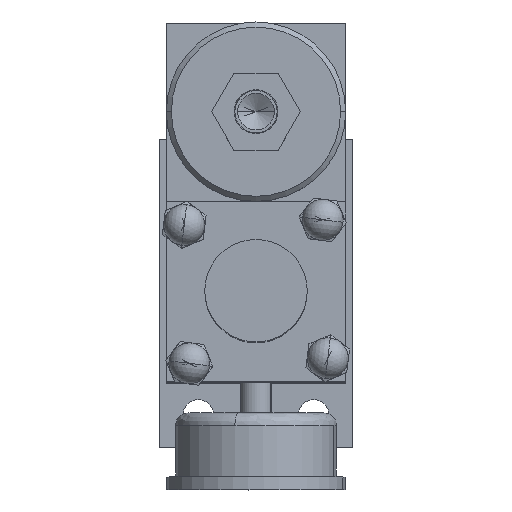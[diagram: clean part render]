
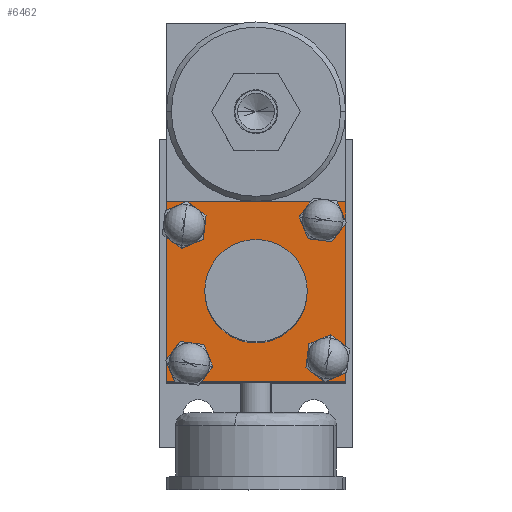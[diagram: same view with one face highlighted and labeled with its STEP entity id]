
A CAD part, top view. The second image highlights one B-rep face of the part: STEP entity #6462.
In plain terms, the highlighted planar face has unit normal (0, 0, 1).
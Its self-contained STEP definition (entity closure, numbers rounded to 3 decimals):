
#55 = EDGE_CURVE ( 'NONE', #1657, #6333, #7030, .T. ) ;
#149 = AXIS2_PLACEMENT_3D ( 'NONE', #3130, #923, #4649 ) ;
#186 = DIRECTION ( 'NONE',  ( 0., 0., 1. ) ) ;
#291 = DIRECTION ( 'NONE',  ( 0., 0., 1. ) ) ;
#441 = EDGE_CURVE ( 'NONE', #5287, #6048, #3448, .T. ) ;
#488 = AXIS2_PLACEMENT_3D ( 'NONE', #6147, #5101, #1714 ) ;
#533 = CARTESIAN_POINT ( 'NONE',  ( 21., 28., 382. ) ) ;
#591 = CIRCLE ( 'NONE', #488, 5. ) ;
#655 = EDGE_CURVE ( 'NONE', #6054, #2457, #5888, .T. ) ;
#657 = CARTESIAN_POINT ( 'NONE',  ( -26., 28., 382. ) ) ;
#668 = CARTESIAN_POINT ( 'NONE',  ( 0., 0., 382. ) ) ;
#676 = DIRECTION ( 'NONE',  ( 1., 0., 0. ) ) ;
#695 = EDGE_CURVE ( 'NONE', #6333, #1657, #591, .T. ) ;
#714 = CIRCLE ( 'NONE', #824, 5. ) ;
#716 = CIRCLE ( 'NONE', #2194, 5. ) ;
#759 = DIRECTION ( 'NONE',  ( 0., 0., 1. ) ) ;
#763 = ORIENTED_EDGE ( 'NONE', *, *, #5092, .T. ) ;
#804 = EDGE_CURVE ( 'NONE', #2156, #4019, #714, .T. ) ;
#824 = AXIS2_PLACEMENT_3D ( 'NONE', #4176, #291, #837 ) ;
#837 = DIRECTION ( 'NONE',  ( 1., 0., 0. ) ) ;
#853 = CIRCLE ( 'NONE', #4857, 5. ) ;
#891 = CARTESIAN_POINT ( 'NONE',  ( -31., -28., 382. ) ) ;
#923 = DIRECTION ( 'NONE',  ( 0., 0., 1. ) ) ;
#969 = CIRCLE ( 'NONE', #1741, 5. ) ;
#983 = EDGE_CURVE ( 'NONE', #1403, #1021, #6443, .T. ) ;
#995 = ORIENTED_EDGE ( 'NONE', *, *, #5489, .F. ) ;
#1006 = CARTESIAN_POINT ( 'NONE',  ( 35., 35., 382. ) ) ;
#1021 = VERTEX_POINT ( 'NONE', #1112 ) ;
#1112 = CARTESIAN_POINT ( 'NONE',  ( 35., -35., 382. ) ) ;
#1179 = AXIS2_PLACEMENT_3D ( 'NONE', #3935, #6042, #676 ) ;
#1184 = PLANE ( 'NONE',  #1179 ) ;
#1289 = DIRECTION ( 'NONE',  ( 0., 0., 1. ) ) ;
#1390 = CARTESIAN_POINT ( 'NONE',  ( -21., 28., 382. ) ) ;
#1403 = VERTEX_POINT ( 'NONE', #4334 ) ;
#1509 = CARTESIAN_POINT ( 'NONE',  ( 35., -35., 382. ) ) ;
#1557 = EDGE_CURVE ( 'NONE', #2457, #6054, #3096, .T. ) ;
#1641 = CARTESIAN_POINT ( 'NONE',  ( 20., 0., 382. ) ) ;
#1657 = VERTEX_POINT ( 'NONE', #5553 ) ;
#1714 = DIRECTION ( 'NONE',  ( 1., 0., 0. ) ) ;
#1734 = AXIS2_PLACEMENT_3D ( 'NONE', #3456, #1806, #4041 ) ;
#1741 = AXIS2_PLACEMENT_3D ( 'NONE', #6335, #1289, #3472 ) ;
#1750 = FACE_BOUND ( 'NONE', #5172, .T. ) ;
#1769 = ORIENTED_EDGE ( 'NONE', *, *, #695, .F. ) ;
#1778 = EDGE_CURVE ( 'NONE', #5536, #1403, #6826, .T. ) ;
#1806 = DIRECTION ( 'NONE',  ( 0., 0., 1. ) ) ;
#1862 = CARTESIAN_POINT ( 'NONE',  ( 31., 28., 382. ) ) ;
#1868 = VERTEX_POINT ( 'NONE', #1006 ) ;
#1905 = ORIENTED_EDGE ( 'NONE', *, *, #6360, .T. ) ;
#1954 = VECTOR ( 'NONE', #2921, 1000. ) ;
#1964 = AXIS2_PLACEMENT_3D ( 'NONE', #657, #186, #2908 ) ;
#2004 = LINE ( 'NONE', #6495, #5645 ) ;
#2010 = ORIENTED_EDGE ( 'NONE', *, *, #1778, .T. ) ;
#2016 = EDGE_LOOP ( 'NONE', ( #6965, #2597 ) ) ;
#2156 = VERTEX_POINT ( 'NONE', #6814 ) ;
#2171 = DIRECTION ( 'NONE',  ( 1., 0., 0. ) ) ;
#2173 = ORIENTED_EDGE ( 'NONE', *, *, #6540, .F. ) ;
#2194 = AXIS2_PLACEMENT_3D ( 'NONE', #5876, #6476, #4345 ) ;
#2210 = FACE_BOUND ( 'NONE', #5105, .T. ) ;
#2323 = DIRECTION ( 'NONE',  ( 1., 0., 0. ) ) ;
#2333 = CARTESIAN_POINT ( 'NONE',  ( 31., -28., 382. ) ) ;
#2457 = VERTEX_POINT ( 'NONE', #5549 ) ;
#2597 = ORIENTED_EDGE ( 'NONE', *, *, #655, .F. ) ;
#2652 = AXIS2_PLACEMENT_3D ( 'NONE', #6648, #759, #2323 ) ;
#2770 = VECTOR ( 'NONE', #4166, 1000. ) ;
#2798 = EDGE_LOOP ( 'NONE', ( #2010, #5722, #1905, #763 ) ) ;
#2873 = ORIENTED_EDGE ( 'NONE', *, *, #55, .F. ) ;
#2908 = DIRECTION ( 'NONE',  ( 1., 0., 0. ) ) ;
#2921 = DIRECTION ( 'NONE',  ( 0., -1., 0. ) ) ;
#2965 = LINE ( 'NONE', #5238, #2770 ) ;
#2985 = DIRECTION ( 'NONE',  ( 0., 0., 1. ) ) ;
#2997 = CARTESIAN_POINT ( 'NONE',  ( -35., -35., 382. ) ) ;
#3095 = CARTESIAN_POINT ( 'NONE',  ( 26., 28., 382. ) ) ;
#3096 = CIRCLE ( 'NONE', #6439, 20. ) ;
#3097 = ORIENTED_EDGE ( 'NONE', *, *, #441, .F. ) ;
#3130 = CARTESIAN_POINT ( 'NONE',  ( 26., -28., 382. ) ) ;
#3257 = CARTESIAN_POINT ( 'NONE',  ( -35., 35., 382. ) ) ;
#3288 = EDGE_LOOP ( 'NONE', ( #2173, #3097 ) ) ;
#3290 = FACE_BOUND ( 'NONE', #2016, .T. ) ;
#3304 = ORIENTED_EDGE ( 'NONE', *, *, #5853, .F. ) ;
#3448 = CIRCLE ( 'NONE', #1734, 5. ) ;
#3456 = CARTESIAN_POINT ( 'NONE',  ( 26., -28., 382. ) ) ;
#3470 = ORIENTED_EDGE ( 'NONE', *, *, #804, .F. ) ;
#3472 = DIRECTION ( 'NONE',  ( 1., 0., 0. ) ) ;
#3509 = ORIENTED_EDGE ( 'NONE', *, *, #6559, .F. ) ;
#3842 = EDGE_LOOP ( 'NONE', ( #3509, #3304 ) ) ;
#3929 = CARTESIAN_POINT ( 'NONE',  ( 21., -28., 382. ) ) ;
#3935 = CARTESIAN_POINT ( 'NONE',  ( 0., 0., 382. ) ) ;
#4019 = VERTEX_POINT ( 'NONE', #891 ) ;
#4041 = DIRECTION ( 'NONE',  ( 1., 0., 0. ) ) ;
#4166 = DIRECTION ( 'NONE',  ( 0., 1., 0. ) ) ;
#4176 = CARTESIAN_POINT ( 'NONE',  ( -26., -28., 382. ) ) ;
#4334 = CARTESIAN_POINT ( 'NONE',  ( -35., -35., 382. ) ) ;
#4345 = DIRECTION ( 'NONE',  ( 1., 0., 0. ) ) ;
#4415 = FACE_OUTER_BOUND ( 'NONE', #2798, .T. ) ;
#4469 = DIRECTION ( 'NONE',  ( 0., 0., 1. ) ) ;
#4649 = DIRECTION ( 'NONE',  ( 1., 0., 0. ) ) ;
#4857 = AXIS2_PLACEMENT_3D ( 'NONE', #3095, #2985, #6889 ) ;
#5092 = EDGE_CURVE ( 'NONE', #1868, #5536, #2004, .T. ) ;
#5101 = DIRECTION ( 'NONE',  ( 0., 0., 1. ) ) ;
#5105 = EDGE_LOOP ( 'NONE', ( #2873, #1769 ) ) ;
#5172 = EDGE_LOOP ( 'NONE', ( #995, #3470 ) ) ;
#5238 = CARTESIAN_POINT ( 'NONE',  ( 35., -35., 382. ) ) ;
#5287 = VERTEX_POINT ( 'NONE', #2333 ) ;
#5380 = DIRECTION ( 'NONE',  ( -1., 0., 0. ) ) ;
#5426 = CIRCLE ( 'NONE', #149, 5. ) ;
#5489 = EDGE_CURVE ( 'NONE', #4019, #2156, #716, .T. ) ;
#5536 = VERTEX_POINT ( 'NONE', #3257 ) ;
#5549 = CARTESIAN_POINT ( 'NONE',  ( -20., 0., 382. ) ) ;
#5553 = CARTESIAN_POINT ( 'NONE',  ( -31., 28., 382. ) ) ;
#5602 = FACE_BOUND ( 'NONE', #3842, .T. ) ;
#5645 = VECTOR ( 'NONE', #5380, 1000. ) ;
#5722 = ORIENTED_EDGE ( 'NONE', *, *, #983, .T. ) ;
#5853 = EDGE_CURVE ( 'NONE', #6952, #6008, #969, .T. ) ;
#5876 = CARTESIAN_POINT ( 'NONE',  ( -26., -28., 382. ) ) ;
#5888 = CIRCLE ( 'NONE', #2652, 20. ) ;
#6008 = VERTEX_POINT ( 'NONE', #533 ) ;
#6042 = DIRECTION ( 'NONE',  ( 0., 0., 1. ) ) ;
#6048 = VERTEX_POINT ( 'NONE', #3929 ) ;
#6054 = VERTEX_POINT ( 'NONE', #1641 ) ;
#6110 = FACE_BOUND ( 'NONE', #3288, .T. ) ;
#6147 = CARTESIAN_POINT ( 'NONE',  ( -26., 28., 382. ) ) ;
#6333 = VERTEX_POINT ( 'NONE', #1390 ) ;
#6335 = CARTESIAN_POINT ( 'NONE',  ( 26., 28., 382. ) ) ;
#6360 = EDGE_CURVE ( 'NONE', #1021, #1868, #2965, .T. ) ;
#6439 = AXIS2_PLACEMENT_3D ( 'NONE', #668, #4469, #6597 ) ;
#6443 = LINE ( 'NONE', #1509, #6645 ) ;
#6462 = ADVANCED_FACE ( 'NONE', ( #3290, #1750, #6110, #5602, #2210, #4415 ), #1184, .T. ) ;
#6476 = DIRECTION ( 'NONE',  ( 0., 0., 1. ) ) ;
#6495 = CARTESIAN_POINT ( 'NONE',  ( 35., 35., 382. ) ) ;
#6540 = EDGE_CURVE ( 'NONE', #6048, #5287, #5426, .T. ) ;
#6559 = EDGE_CURVE ( 'NONE', #6008, #6952, #853, .T. ) ;
#6597 = DIRECTION ( 'NONE',  ( 1., 0., 0. ) ) ;
#6645 = VECTOR ( 'NONE', #2171, 1000. ) ;
#6648 = CARTESIAN_POINT ( 'NONE',  ( 0., 0., 382. ) ) ;
#6814 = CARTESIAN_POINT ( 'NONE',  ( -21., -28., 382. ) ) ;
#6826 = LINE ( 'NONE', #2997, #1954 ) ;
#6889 = DIRECTION ( 'NONE',  ( 1., 0., 0. ) ) ;
#6952 = VERTEX_POINT ( 'NONE', #1862 ) ;
#6965 = ORIENTED_EDGE ( 'NONE', *, *, #1557, .F. ) ;
#7030 = CIRCLE ( 'NONE', #1964, 5. ) ;
